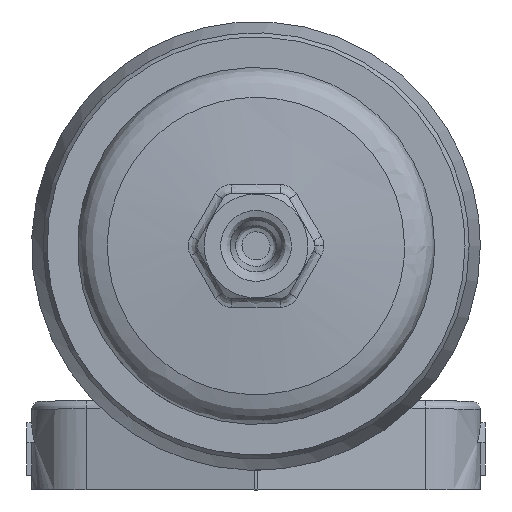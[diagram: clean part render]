
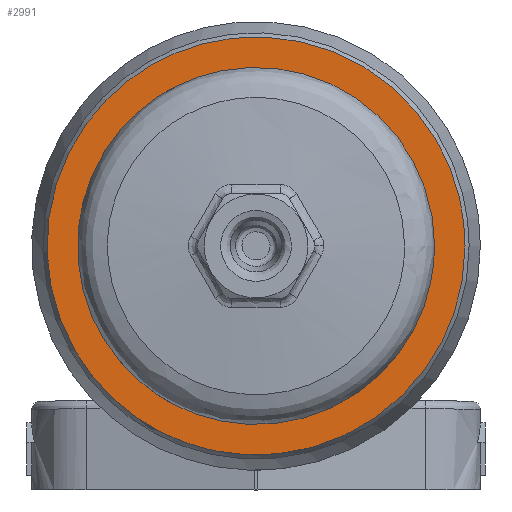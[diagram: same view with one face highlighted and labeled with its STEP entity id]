
A CAD part, front view. The second image highlights one B-rep face of the part: STEP entity #2991.
In plain terms, the highlighted free-form (B-spline) face has degree [1, 1] with [2, 2] control points.
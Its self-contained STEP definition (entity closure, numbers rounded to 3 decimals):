
#2933=CARTESIAN_POINT('V57',(54.,1.5,
   0.));
#2934=VERTEX_POINT('V57',#2933);
#2935=CARTESIAN_POINT('E83',(54.,1.5,
   0.));
#2936=CARTESIAN_POINT('E83',(54.,1.5,
   93.53));
#2937=CARTESIAN_POINT('E83',(-27.,1.5,
   46.765));
#2938=CARTESIAN_POINT('E83',(-108.,1.5,
   0.));
#2939=CARTESIAN_POINT('E83',(-27.,1.5,
   -46.766));
#2940=CARTESIAN_POINT('E83',(54.,1.5,
   -93.531));
#2941=CARTESIAN_POINT('E83',(54.,1.5,
   0.));
#2949=(BOUNDED_CURVE()B_SPLINE_CURVE(2,(#2935,#2936,#2937,#2938,
   #2939,#2940,#2941),.CIRCULAR_ARC.,.T.,.U.)
   B_SPLINE_CURVE_WITH_KNOTS((3,2,2,3),(0.0,0.333,
   0.667,1.0),.UNSPECIFIED.)CURVE()
   GEOMETRIC_REPRESENTATION_ITEM()RATIONAL_B_SPLINE_CURVE((1.0,
   0.5,1.0,0.5,1.0,0.5,1.0)
   )REPRESENTATION_ITEM('E83'));
#2950=EDGE_CURVE('E83',#2934,#2934,#2949,.T.);
#2962=CARTESIAN_POINT('F39',(-71.5,1.5,
   -71.5));
#2963=CARTESIAN_POINT('F39',(-71.5,1.5,
   71.5));
#2964=CARTESIAN_POINT('F39',(71.5,1.5,
   -71.5));
#2965=CARTESIAN_POINT('F39',(71.5,1.5,
   71.5));
#2966=QUASI_UNIFORM_SURFACE('F39',1,1,((#2962,#2964),(#2963,#2965))
,.PLANE_SURF.,.F.,.F.,.U.);
#2967=CARTESIAN_POINT('V59',(63.813,1.5,
   0.0));
#2968=VERTEX_POINT('V59',#2967);
#2969=CARTESIAN_POINT('E86',(63.813,1.5,
   0.0));
#2970=CARTESIAN_POINT('E86',(63.813,1.5,
   -110.527));
#2971=CARTESIAN_POINT('E86',(-31.906,1.5,
   -55.264));
#2972=CARTESIAN_POINT('E86',(-127.626,1.5,
   0.));
#2973=CARTESIAN_POINT('E86',(-31.906,1.5,
   55.264));
#2974=CARTESIAN_POINT('E86',(63.813,1.5,
   110.527));
#2975=CARTESIAN_POINT('E86',(63.813,1.5,
   0.0));
#2983=(BOUNDED_CURVE()B_SPLINE_CURVE(2,(#2969,#2970,#2971,#2972,
   #2973,#2974,#2975),.CIRCULAR_ARC.,.T.,.U.)
   B_SPLINE_CURVE_WITH_KNOTS((3,2,2,3),(0.0,28.571,
   57.141,85.712),.UNSPECIFIED.)CURVE()
   GEOMETRIC_REPRESENTATION_ITEM()RATIONAL_B_SPLINE_CURVE((
   0.901,0.451,0.901,
   0.451,0.901,0.451,
   0.901))REPRESENTATION_ITEM('E86'));
#2984=EDGE_CURVE('E86',#2968,#2968,#2983,.T.);
#2985=ORIENTED_EDGE('E86',*,*,#2984,.F.);
#2986=EDGE_LOOP('F39',(#2985));
#2987=FACE_OUTER_BOUND('F39',#2986,.T.);
#2988=ORIENTED_EDGE('E83',*,*,#2950,.F.);
#2989=EDGE_LOOP('F39',(#2988));
#2990=FACE_BOUND('F39',#2989,.T.);
#2991=ADVANCED_FACE('F39',(#2987,#2990),#2966,.F.);
